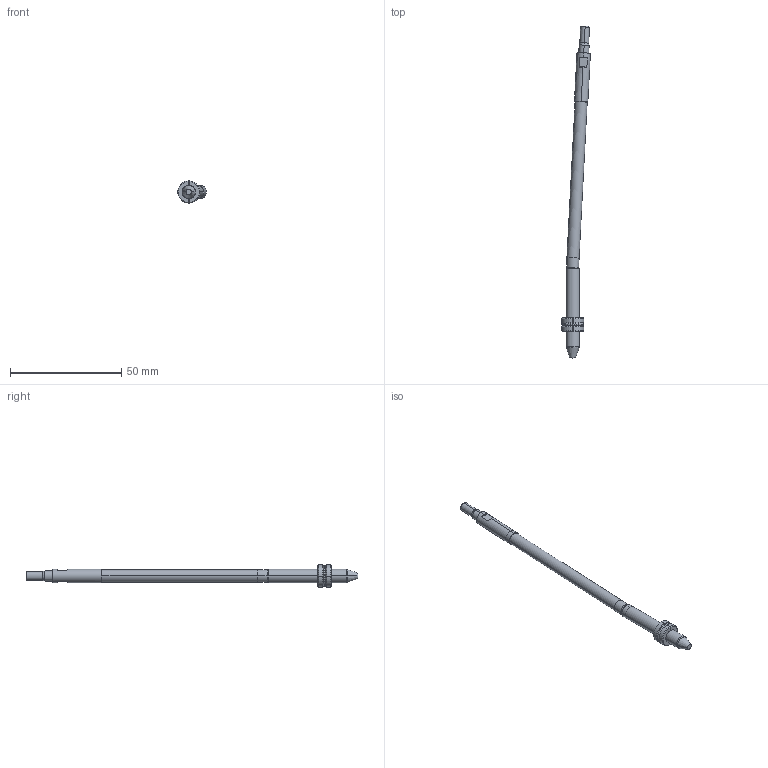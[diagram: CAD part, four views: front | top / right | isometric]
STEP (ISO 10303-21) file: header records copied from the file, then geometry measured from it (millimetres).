
FILE_DESCRIPTION (( 'STEP AP214' ), '1' );
FILE_NAME ('WP060060-EJE 3°.STEP', '2021-03-19T15:16:08', ( '' ), ( '' ), 'SwSTEP 2.0', 'SolidWorks 2019', '' );
FILE_SCHEMA (( 'AUTOMOTIVE_DESIGN' ));
Length unit declared in the file: millimetre
Products named in the file (6): WEB-006-9WP060030-6; WP060060-EJE 3°; WEB-008-JUNTA-JT7X1X9; WEB-007-9WP060060-F_WP060060-F-ON 3ø; WEB-002-9WP060030-2; WEB-001-9WP060030-1
Assembly tree (5 placements, depth 2):
  WP060060-EJE 3°
    WEB-001-9WP060030-1
    WEB-007-9WP060060-F_WP060060-F-ON 3ø
    WEB-002-9WP060030-2
    WEB-006-9WP060030-6
    WEB-008-JUNTA-JT7X1X9
Bounding box: 12.93 x 149.02 x 9.99 mm (x, y, z)
Volume: 3857 mm3; surface area: 3421.9 mm2
Topology: 6 solids, 6 shells, 112 faces, 262 edges, 164 vertices
Faces by surface type: cylinder 36, cone 28, plane 28, torus 20
Entity records: 3723 total; most frequent: CARTESIAN_POINT 714, DIRECTION 598, ORIENTED_EDGE 524, EDGE_CURVE 262, AXIS2_PLACEMENT_3D 256, VERTEX_POINT 164, CIRCLE 136, EDGE_LOOP 116
